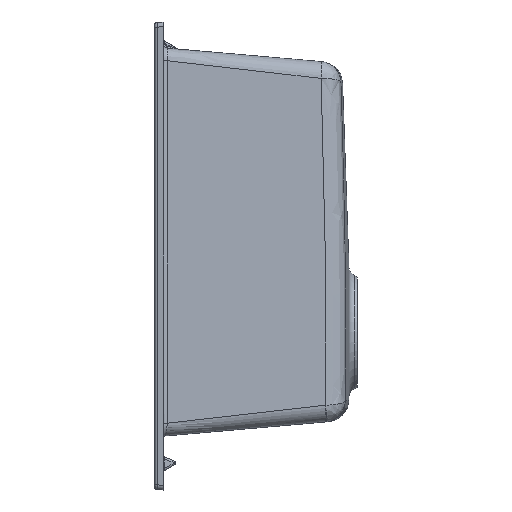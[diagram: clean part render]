
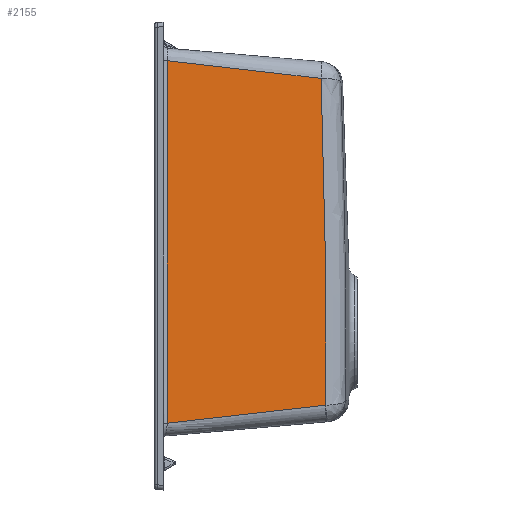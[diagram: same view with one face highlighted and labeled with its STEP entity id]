
A CAD part, left-side view. The second image highlights one B-rep face of the part: STEP entity #2155.
In plain terms, the highlighted planar face has unit normal (-0.996, -0.087, 0).
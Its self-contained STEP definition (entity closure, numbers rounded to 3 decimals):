
#99 = EDGE_CURVE ( 'NONE', #10508, #3647, #5594, .T. ) ;
#149 = CARTESIAN_POINT ( 'NONE',  ( -192.703, -167.939, 189.762 ) ) ;
#239 = CARTESIAN_POINT ( 'NONE',  ( -192.424, -171.124, 73.404 ) ) ;
#454 = CARTESIAN_POINT ( 'NONE',  ( -207.084, -3.564, -178.614 ) ) ;
#923 = CARTESIAN_POINT ( 'NONE',  ( -192.296, -172.595, -159.372 ) ) ;
#1227 = CARTESIAN_POINT ( 'NONE',  ( -192.299, -172.552, 0.666 ) ) ;
#1627 = CARTESIAN_POINT ( 'NONE',  ( -208.21, 9.303, 215.231 ) ) ;
#2155 = ADVANCED_FACE ( 'NONE', ( #9919 ), #9064, .T. ) ;
#2178 = CARTESIAN_POINT ( 'NONE',  ( -192.703, -167.939, 189.762 ) ) ;
#2219 = CARTESIAN_POINT ( 'NONE',  ( -192.254, -173.065, -42.98 ) ) ;
#2862 = DIRECTION ( 'NONE',  ( 0.087, -0.996, 0. ) ) ;
#2916 = CARTESIAN_POINT ( 'NONE',  ( -192.303, -172.506, -159.381 ) ) ;
#3236 = CARTESIAN_POINT ( 'NONE',  ( -192.241, -173.214, -86.627 ) ) ;
#3284 = CARTESIAN_POINT ( 'NONE',  ( -207.084, -3.564, 79.517 ) ) ;
#3430 = EDGE_CURVE ( 'NONE', #10578, #3647, #10296, .T. ) ;
#3647 = VERTEX_POINT ( 'NONE', #5575 ) ;
#3763 = DIRECTION ( 'NONE',  ( -0.996, -0.087, 0. ) ) ;
#3858 = CARTESIAN_POINT ( 'NONE',  ( -192.298, -172.566, -159.376 ) ) ;
#3944 = AXIS2_PLACEMENT_3D ( 'NONE', #1627, #3763, #2862 ) ;
#4081 = CARTESIAN_POINT ( 'NONE',  ( -202.296, -58.285, 201.497 ) ) ;
#4208 = CARTESIAN_POINT ( 'NONE',  ( -192.263, -172.972, -130.274 ) ) ;
#5218 = CARTESIAN_POINT ( 'NONE',  ( -192.296, -172.595, -159.372 ) ) ;
#5291 = VERTEX_POINT ( 'NONE', #7686 ) ;
#5343 = ORIENTED_EDGE ( 'NONE', *, *, #11439, .F. ) ;
#5575 = CARTESIAN_POINT ( 'NONE',  ( -207.084, -3.564, -178.614 ) ) ;
#5594 = B_SPLINE_CURVE_WITH_KNOTS ( 'NONE', 3,
 ( #10039, #3284, #6164, #12310 ),
 .UNSPECIFIED., .F., .F.,
 ( 4, 4 ),
 ( 0.007, 0.394 ),
 .UNSPECIFIED. ) ;
#5627 = CARTESIAN_POINT ( 'NONE',  ( -207.084, -3.564, 208.582 ) ) ;
#5753 = ORIENTED_EDGE ( 'NONE', *, *, #11258, .F. ) ;
#6097 = CARTESIAN_POINT ( 'NONE',  ( -197.508, -113.02, 194.567 ) ) ;
#6164 = CARTESIAN_POINT ( 'NONE',  ( -207.084, -3.564, -49.549 ) ) ;
#6185 = CARTESIAN_POINT ( 'NONE',  ( -192.555, -169.627, 131.585 ) ) ;
#6240 = ORIENTED_EDGE ( 'NONE', *, *, #99, .T. ) ;
#6268 = CARTESIAN_POINT ( 'NONE',  ( -192.296, -172.595, -159.372 ) ) ;
#7131 = B_SPLINE_CURVE_WITH_KNOTS ( 'NONE', 3,
 ( #923, #3858, #8813, #2916 ),
 .UNSPECIFIED., .F., .F.,
 ( 4, 4 ),
 ( 0., 0. ),
 .UNSPECIFIED. ) ;
#7147 = CARTESIAN_POINT ( 'NONE',  ( -192.366, -171.796, 44.311 ) ) ;
#7231 = B_SPLINE_CURVE_WITH_KNOTS ( 'NONE', 3,
 ( #2178, #11075, #6185, #239, #7147, #1227, #8131, #2219, #9131, #3236, #10113, #4208, #11117, #5218 ),
 .UNSPECIFIED., .F., .F.,
 ( 4, 2, 2, 2, 2, 2, 4 ),
 ( 0., 0.087, 0.175, 0.218, 0.262, 0.306, 0.349 ),
 .UNSPECIFIED. ) ;
#7686 = CARTESIAN_POINT ( 'NONE',  ( -192.703, -167.939, 189.762 ) ) ;
#8131 = CARTESIAN_POINT ( 'NONE',  ( -192.281, -172.761, -13.883 ) ) ;
#8616 = CARTESIAN_POINT ( 'NONE',  ( -192.303, -172.506, -159.381 ) ) ;
#8813 = CARTESIAN_POINT ( 'NONE',  ( -192.301, -172.536, -159.379 ) ) ;
#9064 = PLANE ( 'NONE',  #3944 ) ;
#9131 = CARTESIAN_POINT ( 'NONE',  ( -192.246, -173.159, -57.529 ) ) ;
#9334 = EDGE_CURVE ( 'NONE', #10508, #5291, #11944, .T. ) ;
#9425 = VERTEX_POINT ( 'NONE', #6268 ) ;
#9508 = ORIENTED_EDGE ( 'NONE', *, *, #3430, .F. ) ;
#9919 = FACE_OUTER_BOUND ( 'NONE', #10918, .T. ) ;
#10039 = CARTESIAN_POINT ( 'NONE',  ( -207.084, -3.564, 208.582 ) ) ;
#10113 = CARTESIAN_POINT ( 'NONE',  ( -192.245, -173.176, -101.176 ) ) ;
#10296 = B_SPLINE_CURVE_WITH_KNOTS ( 'NONE', 3,
 ( #10465, #11385, #12778, #454 ),
 .UNSPECIFIED., .F., .F.,
 ( 4, 4 ),
 ( -0.073, 0.098 ),
 .UNSPECIFIED. ) ;
#10465 = CARTESIAN_POINT ( 'NONE',  ( -192.303, -172.506, -159.381 ) ) ;
#10508 = VERTEX_POINT ( 'NONE', #5627 ) ;
#10578 = VERTEX_POINT ( 'NONE', #8616 ) ;
#10918 = EDGE_LOOP ( 'NONE', ( #11683, #6240, #9508, #5343, #5753 ) ) ;
#10989 = CARTESIAN_POINT ( 'NONE',  ( -207.084, -3.564, 208.582 ) ) ;
#11075 = CARTESIAN_POINT ( 'NONE',  ( -192.627, -168.801, 160.674 ) ) ;
#11117 = CARTESIAN_POINT ( 'NONE',  ( -192.277, -172.809, -144.823 ) ) ;
#11258 = EDGE_CURVE ( 'NONE', #5291, #9425, #7231, .T. ) ;
#11385 = CARTESIAN_POINT ( 'NONE',  ( -197.241, -116.064, -164.319 ) ) ;
#11439 = EDGE_CURVE ( 'NONE', #9425, #10578, #7131, .T. ) ;
#11683 = ORIENTED_EDGE ( 'NONE', *, *, #9334, .F. ) ;
#11944 = B_SPLINE_CURVE_WITH_KNOTS ( 'NONE', 3,
 ( #10989, #4081, #6097, #149 ),
 .UNSPECIFIED., .F., .F.,
 ( 4, 4 ),
 ( 0.013, 0.179 ),
 .UNSPECIFIED. ) ;
#12310 = CARTESIAN_POINT ( 'NONE',  ( -207.084, -3.564, -178.614 ) ) ;
#12778 = CARTESIAN_POINT ( 'NONE',  ( -202.163, -59.808, -171.391 ) ) ;
